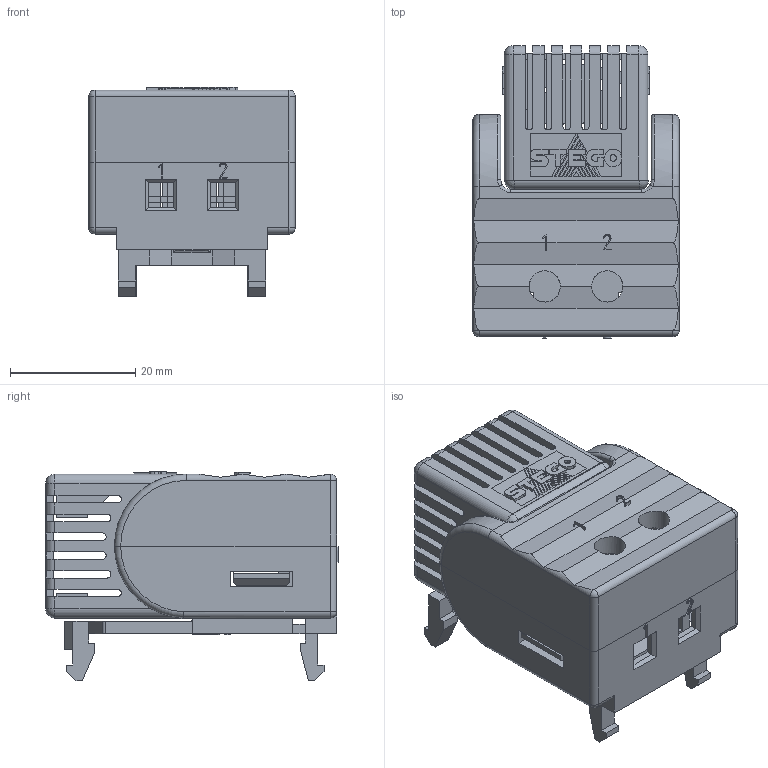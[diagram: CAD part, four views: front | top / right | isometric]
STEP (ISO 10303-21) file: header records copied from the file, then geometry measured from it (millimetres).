
FILE_DESCRIPTION (( 'STEP AP214' ), '1' );
FILE_NAME ('FTO_011_EPLAN_07_2013.STEP', '2013-07-22T14:14:06', ( '' ), ( '' ), 'SwSTEP 2.0', 'SolidWorks 2013', '' );
FILE_SCHEMA (( 'AUTOMOTIVE_DESIGN' ));
Length unit declared in the file: millimetre
Products named in the file (1): FTO_011_EPLAN_07_2013
Bounding box: 33 x 46.8 x 33.45 mm (x, y, z)
Surface area: 11395.7 mm2 (no closed solid volume)
Topology: 0 solids, 7 shells, 636 faces, 2460 edges, 1706 vertices
Faces by surface type: plane 444, cylinder 88, bspline 82, sphere 12, torus 10
Full cylindrical faces by diameter (mm): 0.36 x1, 5 x2
Entity records: 31576 total; most frequent: CARTESIAN_POINT 6718, ORIENTED_EDGE 4148, DIRECTION 3647, EDGE_CURVE 2445, VECTOR 1923, LINE 1923, VERTEX_POINT 1706, AXIS2_PLACEMENT_3D 862
